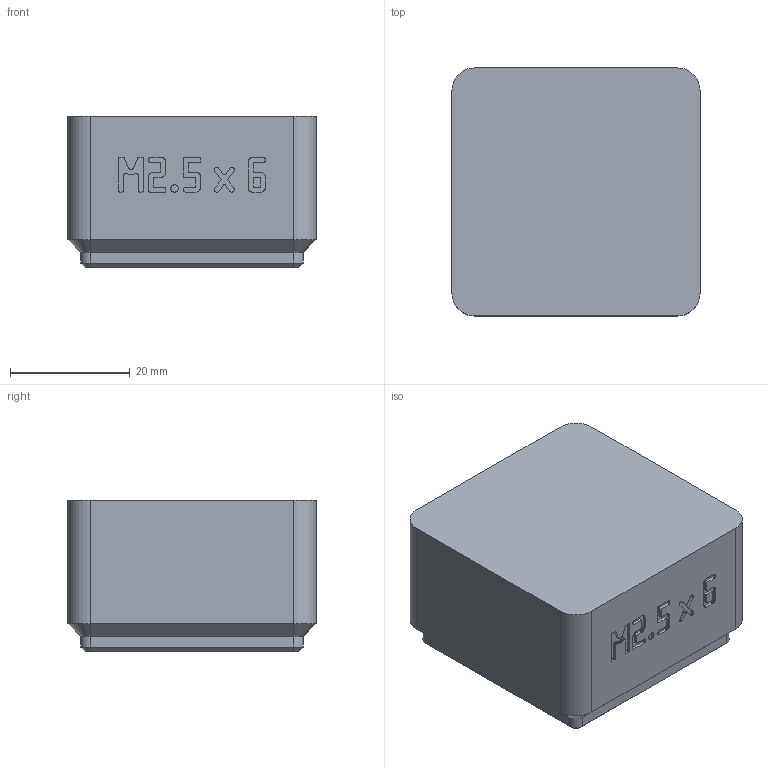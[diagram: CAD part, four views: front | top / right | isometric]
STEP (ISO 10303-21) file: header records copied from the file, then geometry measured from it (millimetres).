
FILE_DESCRIPTION(('Open CASCADE Model'),'2;1');
FILE_NAME('Open CASCADE Shape Model','2026-11-03T16:22:42',('Author'),( 'Open CASCADE'),'Open CASCADE STEP processor 8.0','build123d', 'Unknown');
FILE_SCHEMA(('AUTOMOTIVE_DESIGN { 1 0 10303 214 1 1 1 1 }'));
Products named in the file (1): COMPOUND
Bounding box: 41.5 x 41.5 x 25.4 mm (x, y, z)
Volume: 14677 mm3; surface area: 13544.1 mm2
Topology: 1 solids, 2 shells, 1279 faces, 3740 edges, 2480 vertices
Faces by surface type: plane 1243, cylinder 16, cone 12, bspline 8
Entity records: 90030 total; most frequent: CARTESIAN_POINT 15244, DIRECTION 13664, LINE 11016, VECTOR 11016, ORIENTED_EDGE 7480, PCURVE 7480, DEFINITIONAL_REPRESENTATION 7480, EDGE_CURVE 3740
